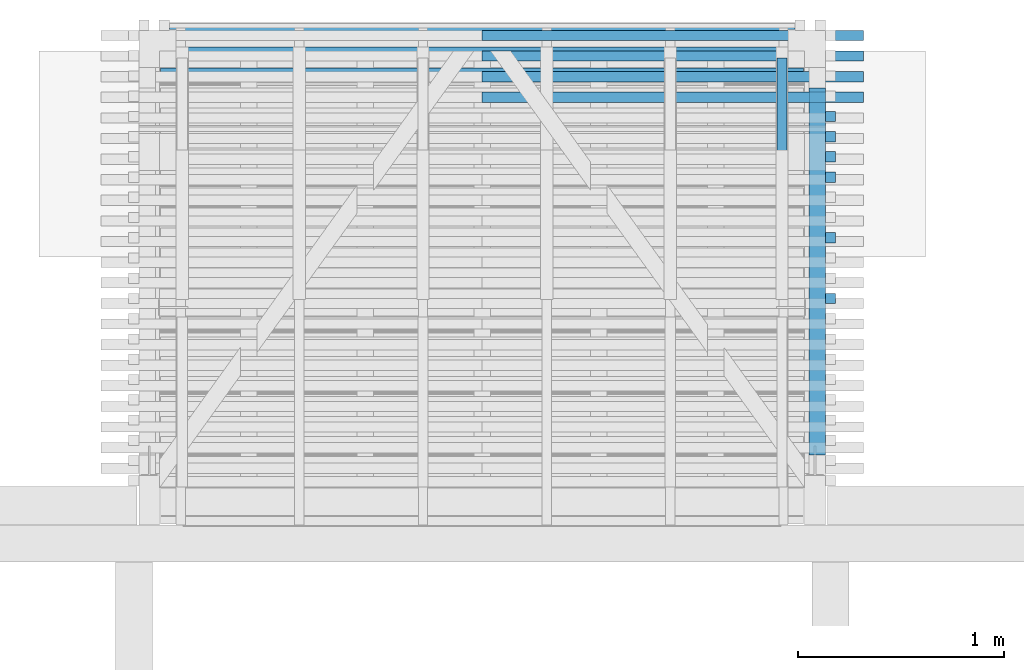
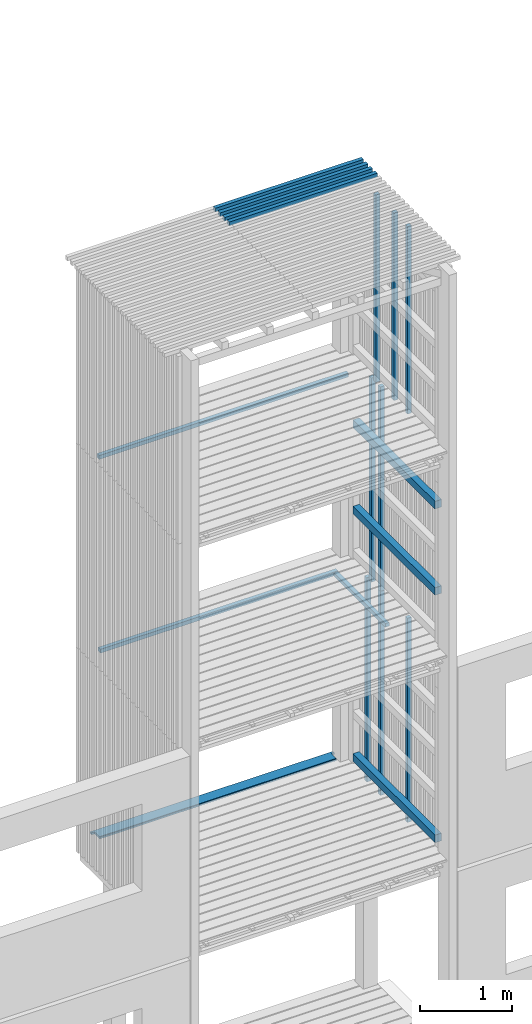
# One storey, part 28 of 182: 19 beams.
"""IFC2X3 building model written with IfcOpenShell, lengths in metres."""

from ifc_helpers import new_model, si_unit, frame, origin, place, context, project, spatial, faceted_brep, element, save


model = new_model("IFC2X3")

# Units and contexts
model_context = context("Model", 3, precision=1e-06, world=origin())
ifc_project = project(units=[si_unit("LENGTHUNIT", "METRE"), si_unit("PLANEANGLEUNIT", "RADIAN")], contexts=[model_context])

# Site, building, storey
site = spatial("IfcSite", under=ifc_project, CompositionType="ELEMENT")
building = spatial("IfcBuilding", under=site, CompositionType="ELEMENT")
storey = spatial("IfcBuildingStorey", under=building, Name="vs", CompositionType="ELEMENT", Elevation=-0.85)

# Beams
placement = place(None, origin())
beam_1_placement = place(placement, frame((6.66919731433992, 12.35416861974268, 5.274999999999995), z_axis=(-1.0, 0.0, 0.0), x_axis=(0.0, 0.0, 1.0)))
element("IfcBeam", 1, at=beam_1_placement, inside=storey, Name="Bardage", context=model_context, shape_type="Brep", body=[
    faceted_brep([(1e-15, -0.024999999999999, 0.024999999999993), (1e-15, 0.024999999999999, 0.024999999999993), (1e-15, 0.024999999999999, -0.025000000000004), (1e-15, -0.024999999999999, -0.025000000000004), (2.699999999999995, -0.024999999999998, -0.025000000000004), (2.699999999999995, 0.024999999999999, -0.025000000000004), (2.699999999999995, 0.024999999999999, 0.024999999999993), (2.699999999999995, -0.024999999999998, 0.024999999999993), (1e-15, -0.024999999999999, 0.024999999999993), (1e-15, -0.024999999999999, -0.025000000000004), (2.699999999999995, -0.024999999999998, -0.025000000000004), (2.699999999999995, -0.024999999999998, 0.024999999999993), (2.699999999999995, -0.024999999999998, -0.025000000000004), (1e-15, -0.024999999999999, -0.025000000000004), (1e-15, 0.024999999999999, -0.025000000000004), (2.699999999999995, 0.024999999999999, -0.025000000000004), (2.699999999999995, 0.024999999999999, -0.025000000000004), (1e-15, 0.024999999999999, -0.025000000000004), (1e-15, 0.024999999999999, 0.024999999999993), (2.699999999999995, 0.024999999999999, 0.024999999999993), (2.699999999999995, 0.024999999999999, 0.024999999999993), (1e-15, 0.024999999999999, 0.024999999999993), (1e-15, -0.024999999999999, 0.024999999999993), (2.699999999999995, -0.024999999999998, 0.024999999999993)], [[[0, 1, 2, 3]], [[4, 5, 6, 7]], [[8, 9, 10, 11]], [[12, 13, 14, 15]], [[16, 17, 18, 19]], [[20, 21, 22, 23]]]),
])
beam_2_placement = place(placement, frame((6.66919731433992, 12.157804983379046, 5.274999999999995), z_axis=(-1.0, 0.0, 0.0), x_axis=(0.0, 0.0, 1.0)))
element("IfcBeam", 2, at=beam_2_placement, inside=storey, Name="Bardage", context=model_context, shape_type="Brep", body=[
    faceted_brep([(1e-15, -0.024999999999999, 0.024999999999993), (1e-15, 0.024999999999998, 0.024999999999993), (1e-15, 0.024999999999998, -0.025000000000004), (1e-15, -0.024999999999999, -0.025000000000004), (2.699999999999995, -0.024999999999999, -0.025000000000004), (2.699999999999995, 0.025000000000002, -0.025000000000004), (2.699999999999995, 0.025000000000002, 0.024999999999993), (2.699999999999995, -0.024999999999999, 0.024999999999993), (1e-15, -0.024999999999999, 0.024999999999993), (1e-15, -0.024999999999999, -0.025000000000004), (2.699999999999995, -0.024999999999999, -0.025000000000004), (2.699999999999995, -0.024999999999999, 0.024999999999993), (2.699999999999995, -0.024999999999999, -0.025000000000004), (1e-15, -0.024999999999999, -0.025000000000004), (1e-15, 0.024999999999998, -0.025000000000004), (2.699999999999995, 0.025000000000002, -0.025000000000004), (2.699999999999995, 0.025000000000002, -0.025000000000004), (1e-15, 0.024999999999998, -0.025000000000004), (1e-15, 0.024999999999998, 0.024999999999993), (2.699999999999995, 0.025000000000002, 0.024999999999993), (2.699999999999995, 0.025000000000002, 0.024999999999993), (1e-15, 0.024999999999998, 0.024999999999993), (1e-15, -0.024999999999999, 0.024999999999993), (2.699999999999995, -0.024999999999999, 0.024999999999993)], [[[0, 1, 2, 3]], [[4, 5, 6, 7]], [[8, 9, 10, 11]], [[12, 13, 14, 15]], [[16, 17, 18, 19]], [[20, 21, 22, 23]]]),
])
beam_3_placement = place(placement, frame((6.66919731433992, 11.568714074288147, 2.575000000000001), z_axis=(-1.0, 0.0, 0.0), x_axis=(0.0, 0.0, 1.0)))
element("IfcBeam", 3, at=beam_3_placement, inside=storey, Name="Bardage", context=model_context, shape_type="Brep", body=[
    faceted_brep([(0.0, -0.024999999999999, 0.024999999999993), (0.0, 0.024999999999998, 0.024999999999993), (0.0, 0.024999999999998, -0.025000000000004), (0.0, -0.024999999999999, -0.025000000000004), (2.699961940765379, 0.024999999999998, -0.025000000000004), (2.699961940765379, 0.024999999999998, 0.024999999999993), (2.699961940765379, -0.024999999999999, 0.024999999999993), (2.699961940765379, -0.024999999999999, -0.025000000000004), (0.0, -0.024999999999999, -0.025000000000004), (0.0, 0.024999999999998, -0.025000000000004), (2.699961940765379, 0.024999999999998, -0.025000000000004), (2.699961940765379, -0.024999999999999, -0.025000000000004), (2.699961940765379, 0.024999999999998, -0.025000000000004), (0.0, 0.024999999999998, -0.025000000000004), (0.0, 0.024999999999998, 0.024999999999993), (2.699961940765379, 0.024999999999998, 0.024999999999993), (2.699961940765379, 0.024999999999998, 0.024999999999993), (0.0, 0.024999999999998, 0.024999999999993), (0.0, -0.024999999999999, 0.024999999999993), (2.699961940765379, -0.024999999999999, 0.024999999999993), (2.699961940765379, -0.024999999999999, 0.024999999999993), (0.0, -0.024999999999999, 0.024999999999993), (0.0, -0.024999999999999, -0.025000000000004), (2.699961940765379, -0.024999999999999, -0.025000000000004)], [[[0, 1, 2, 3]], [[4, 5, 6, 7]], [[8, 9, 10, 11]], [[12, 13, 14, 15]], [[16, 17, 18, 19]], [[20, 21, 22, 23]]]),
])
beam_4_placement = place(placement, frame((6.604197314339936, 10.810077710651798, 2.830000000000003), z_axis=(0.0, 0.0, 1.0), x_axis=(0.0, 1.0, 0.0)))
element("IfcBeam", 4, at=beam_4_placement, inside=storey, Name="Support bardage", context=model_context, shape_type="Brep", body=[
    faceted_brep([(1.779999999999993, -0.039999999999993, 0.05), (1.779999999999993, -0.039999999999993, -0.050000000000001), (1.779999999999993, 0.04000000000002, -0.050000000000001), (1.779999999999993, 0.04000000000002, 0.05), (-4e-15, -0.039999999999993, -0.050000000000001), (1.779999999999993, -0.039999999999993, -0.050000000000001), (1.779999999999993, -0.039999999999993, 0.05), (-4e-15, -0.039999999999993, 0.05), (-4e-15, 0.04000000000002, -0.050000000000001), (1.779999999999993, 0.04000000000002, -0.050000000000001), (1.779999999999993, -0.039999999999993, -0.050000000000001), (-4e-15, -0.039999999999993, -0.050000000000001), (-4e-15, 0.04000000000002, 0.05), (1.779999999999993, 0.04000000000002, 0.05), (1.779999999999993, 0.04000000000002, -0.050000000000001), (-4e-15, 0.04000000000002, -0.050000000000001), (-4e-15, -0.039999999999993, 0.05), (1.779999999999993, -0.039999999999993, 0.05), (1.779999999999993, 0.04000000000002, 0.05), (-4e-15, 0.04000000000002, 0.05), (-4e-15, -0.039999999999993, -0.050000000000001), (-4e-15, -0.039999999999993, 0.05), (-4e-15, 0.04000000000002, 0.05), (-4e-15, 0.04000000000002, -0.050000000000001)], [[[0, 1, 2, 3]], [[4, 5, 6, 7]], [[8, 9, 10, 11]], [[12, 13, 14, 15]], [[16, 17, 18, 19]], [[20, 21, 22, 23]]]),
])
beam_5_placement = place(placement, frame((6.66919731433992, 12.255986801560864, 7.974999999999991), z_axis=(-1.0, 0.0, 0.0), x_axis=(0.0, 0.0, 1.0)))
element("IfcBeam", 5, at=beam_5_placement, inside=storey, Name="Bardage", context=model_context, shape_type="Brep", body=[
    faceted_brep([(2.479999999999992, -0.025000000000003, 0.024999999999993), (2.479999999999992, -0.025000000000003, -0.025000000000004), (2.479999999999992, 0.025000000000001, -0.025000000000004), (2.479999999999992, 0.025000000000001, 0.024999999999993), (0.0, 0.025000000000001, 0.024999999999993), (0.0, -0.025000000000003, 0.024999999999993), (2.479999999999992, -0.025000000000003, 0.024999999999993), (2.479999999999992, 0.025000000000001, 0.024999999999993), (0.0, -0.025000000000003, 0.024999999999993), (0.0, 0.025000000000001, 0.024999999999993), (0.0, 0.025000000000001, -0.025000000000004), (0.0, -0.025000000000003, -0.025000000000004), (0.0, 0.025000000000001, -0.025000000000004), (0.0, 0.025000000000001, 0.024999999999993), (2.479999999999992, 0.025000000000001, 0.024999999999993), (2.479999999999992, 0.025000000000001, -0.025000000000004), (0.0, -0.025000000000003, -0.025000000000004), (0.0, 0.025000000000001, -0.025000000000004), (2.479999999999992, 0.025000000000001, -0.025000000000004), (2.479999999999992, -0.025000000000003, -0.025000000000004), (2.479999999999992, -0.025000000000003, 0.024999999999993), (0.0, -0.025000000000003, 0.024999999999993), (0.0, -0.025000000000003, -0.025000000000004), (2.479999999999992, -0.025000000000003, -0.025000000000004)], [[[0, 1, 2, 3]], [[4, 5, 6, 7]], [[8, 9, 10, 11]], [[12, 13, 14, 15]], [[16, 17, 18, 19]], [[20, 21, 22, 23]]]),
])
beam_6_placement = place(placement, frame((6.66919731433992, 12.157804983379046, 2.575000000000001), z_axis=(-1.0, 0.0, 0.0), x_axis=(0.0, 0.0, 1.0)))
element("IfcBeam", 6, at=beam_6_placement, inside=storey, Name="Bardage", context=model_context, shape_type="Brep", body=[
    faceted_brep([(0.0, -0.024999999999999, 0.024999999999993), (0.0, 0.025000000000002, 0.024999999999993), (0.0, 0.025000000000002, -0.025000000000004), (0.0, -0.024999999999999, -0.025000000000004), (2.699961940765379, 0.025000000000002, -0.025000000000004), (2.699961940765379, 0.025000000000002, 0.024999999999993), (2.699961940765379, -0.024999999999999, 0.024999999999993), (2.699961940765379, -0.024999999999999, -0.025000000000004), (0.0, -0.024999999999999, -0.025000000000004), (0.0, 0.025000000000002, -0.025000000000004), (2.699961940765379, 0.025000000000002, -0.025000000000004), (2.699961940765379, -0.024999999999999, -0.025000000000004), (2.699961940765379, 0.025000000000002, -0.025000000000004), (0.0, 0.025000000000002, -0.025000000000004), (0.0, 0.025000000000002, 0.024999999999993), (2.699961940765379, 0.025000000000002, 0.024999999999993), (2.699961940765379, 0.025000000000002, 0.024999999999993), (0.0, 0.025000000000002, 0.024999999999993), (0.0, -0.024999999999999, 0.024999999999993), (2.699961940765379, -0.024999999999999, 0.024999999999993), (2.699961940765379, -0.024999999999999, 0.024999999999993), (0.0, -0.024999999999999, 0.024999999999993), (0.0, -0.024999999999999, -0.025000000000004), (2.699961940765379, -0.024999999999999, -0.025000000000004)], [[[0, 1, 2, 3]], [[4, 5, 6, 7]], [[8, 9, 10, 11]], [[12, 13, 14, 15]], [[16, 17, 18, 19]], [[20, 21, 22, 23]]]),
])
beam_7_placement = place(placement, frame((6.604197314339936, 10.810077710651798, 6.101249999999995), z_axis=(0.0, 0.0, 1.0), x_axis=(0.0, 1.0, 0.0)))
element("IfcBeam", 7, at=beam_7_placement, inside=storey, Name="Support bardage", context=model_context, shape_type="Brep", body=[
    faceted_brep([(1.779999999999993, -0.039999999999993, 0.050000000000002), (1.779999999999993, -0.039999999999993, -0.05), (1.779999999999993, 0.04000000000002, -0.05), (1.779999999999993, 0.04000000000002, 0.050000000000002), (-4e-15, -0.039999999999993, -0.05), (1.779999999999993, -0.039999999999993, -0.05), (1.779999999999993, -0.039999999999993, 0.050000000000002), (-4e-15, -0.039999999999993, 0.050000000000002), (-4e-15, 0.04000000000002, -0.05), (1.779999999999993, 0.04000000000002, -0.05), (1.779999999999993, -0.039999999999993, -0.05), (-4e-15, -0.039999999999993, -0.05), (-4e-15, 0.04000000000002, 0.050000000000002), (1.779999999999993, 0.04000000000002, 0.050000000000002), (1.779999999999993, 0.04000000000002, -0.05), (-4e-15, 0.04000000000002, -0.05), (-4e-15, -0.039999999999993, 0.050000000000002), (1.779999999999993, -0.039999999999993, 0.050000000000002), (1.779999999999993, 0.04000000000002, 0.050000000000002), (-4e-15, 0.04000000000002, 0.050000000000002), (-4e-15, -0.039999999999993, -0.05), (-4e-15, -0.039999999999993, 0.050000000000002), (-4e-15, 0.04000000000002, 0.050000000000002), (-4e-15, 0.04000000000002, -0.05)], [[[0, 1, 2, 3]], [[4, 5, 6, 7]], [[8, 9, 10, 11]], [[12, 13, 14, 15]], [[16, 17, 18, 19]], [[20, 21, 22, 23]]]),
])
beam_8_placement = place(placement, frame((6.66919731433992, 11.863259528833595, 7.974999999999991), z_axis=(-1.0, 0.0, 0.0), x_axis=(0.0, 0.0, 1.0)))
element("IfcBeam", 8, at=beam_8_placement, inside=storey, Name="Bardage", context=model_context, shape_type="Brep", body=[
    faceted_brep([(2.479999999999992, -0.024999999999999, 0.024999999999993), (2.479999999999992, -0.024999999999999, -0.025000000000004), (2.479999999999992, 0.024999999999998, -0.025000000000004), (2.479999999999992, 0.024999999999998, 0.024999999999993), (0.0, 0.024999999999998, 0.024999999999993), (0.0, -0.024999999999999, 0.024999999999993), (2.479999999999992, -0.024999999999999, 0.024999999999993), (2.479999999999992, 0.024999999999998, 0.024999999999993), (0.0, -0.024999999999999, 0.024999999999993), (0.0, 0.024999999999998, 0.024999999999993), (0.0, 0.024999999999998, -0.025000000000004), (0.0, -0.024999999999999, -0.025000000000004), (0.0, 0.024999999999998, -0.025000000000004), (0.0, 0.024999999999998, 0.024999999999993), (2.479999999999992, 0.024999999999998, 0.024999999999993), (2.479999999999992, 0.024999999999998, -0.025000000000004), (0.0, -0.024999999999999, -0.025000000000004), (0.0, 0.024999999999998, -0.025000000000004), (2.479999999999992, 0.024999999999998, -0.025000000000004), (2.479999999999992, -0.024999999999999, -0.025000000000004), (2.479999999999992, -0.024999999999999, 0.024999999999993), (0.0, -0.024999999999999, 0.024999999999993), (0.0, -0.024999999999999, -0.025000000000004), (2.479999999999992, -0.024999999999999, -0.025000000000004)], [[[0, 1, 2, 3]], [[4, 5, 6, 7]], [[8, 9, 10, 11]], [[12, 13, 14, 15]], [[16, 17, 18, 19]], [[20, 21, 22, 23]]]),
])
beam_9_placement = place(placement, frame((6.434197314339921, 12.735077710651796, 5.217399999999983), z_axis=(0.0, 0.0, 1.0), x_axis=(0.0, -1.0, 0.0)))
element("IfcBeam", 9, at=beam_9_placement, inside=storey, Name="Calage", context=model_context, shape_type="Brep", body=[
    faceted_brep([(0.0, 0.025000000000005, -0.025), (0.0, -0.024999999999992, -0.025), (0.0, -0.024999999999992, 0.024999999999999), (0.0, 0.025000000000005, 0.024999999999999), (1.115000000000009, -0.024999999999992, 0.024999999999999), (1.115000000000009, -0.024999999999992, -0.025), (1.115000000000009, 0.025000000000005, -0.025), (1.115000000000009, 0.025000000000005, 0.024999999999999), (0.0, -0.024999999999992, 0.024999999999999), (0.0, -0.024999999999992, -0.025), (1.115000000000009, -0.024999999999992, -0.025), (1.115000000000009, -0.024999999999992, 0.024999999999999), (1.115000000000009, -0.024999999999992, -0.025), (0.0, -0.024999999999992, -0.025), (0.0, 0.025000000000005, -0.025), (1.115000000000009, 0.025000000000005, -0.025), (1.115000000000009, 0.025000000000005, -0.025), (0.0, 0.025000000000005, -0.025), (0.0, 0.025000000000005, 0.024999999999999), (1.115000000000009, 0.025000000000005, 0.024999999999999), (1.115000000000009, 0.025000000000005, 0.024999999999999), (0.0, 0.025000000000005, 0.024999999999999), (0.0, -0.024999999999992, 0.024999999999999), (1.115000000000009, -0.024999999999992, 0.024999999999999)], [[[0, 1, 2, 3]], [[4, 5, 6, 7]], [[8, 9, 10, 11]], [[12, 13, 14, 15]], [[16, 17, 18, 19]], [[20, 21, 22, 23]]]),
])
beam_10_placement = place(placement, frame((6.604197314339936, 10.810077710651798, 7.24374999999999), z_axis=(0.0, 0.0, 1.0), x_axis=(0.0, 1.0, 0.0)))
element("IfcBeam", 10, at=beam_10_placement, inside=storey, Name="Support bardage", context=model_context, shape_type="Brep", body=[
    faceted_brep([(1.779999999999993, -0.039999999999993, 0.050000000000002), (1.779999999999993, -0.039999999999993, -0.049999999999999), (1.779999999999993, 0.04000000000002, -0.049999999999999), (1.779999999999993, 0.04000000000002, 0.050000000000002), (-4e-15, -0.039999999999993, -0.049999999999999), (1.779999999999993, -0.039999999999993, -0.049999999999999), (1.779999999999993, -0.039999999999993, 0.050000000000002), (-4e-15, -0.039999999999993, 0.050000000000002), (-4e-15, 0.04000000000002, -0.049999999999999), (1.779999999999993, 0.04000000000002, -0.049999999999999), (1.779999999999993, -0.039999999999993, -0.049999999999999), (-4e-15, -0.039999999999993, -0.049999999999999), (-4e-15, 0.04000000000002, 0.050000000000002), (1.779999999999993, 0.04000000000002, 0.050000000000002), (1.779999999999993, 0.04000000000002, -0.049999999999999), (-4e-15, 0.04000000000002, -0.049999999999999), (-4e-15, -0.039999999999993, 0.050000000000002), (1.779999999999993, -0.039999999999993, 0.050000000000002), (1.779999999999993, 0.04000000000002, 0.050000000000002), (-4e-15, 0.04000000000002, 0.050000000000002), (-4e-15, -0.039999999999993, -0.049999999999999), (-4e-15, -0.039999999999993, 0.050000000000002), (-4e-15, 0.04000000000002, 0.050000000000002), (-4e-15, 0.04000000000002, -0.049999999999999)], [[[0, 1, 2, 3]], [[4, 5, 6, 7]], [[8, 9, 10, 11]], [[12, 13, 14, 15]], [[16, 17, 18, 19]], [[20, 21, 22, 23]]]),
])
beam_11_placement = place(placement, frame((6.66919731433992, 11.568714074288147, 7.974999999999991), z_axis=(-1.0, 0.0, 0.0), x_axis=(0.0, 0.0, 1.0)))
element("IfcBeam", 11, at=beam_11_placement, inside=storey, Name="Bardage", context=model_context, shape_type="Brep", body=[
    faceted_brep([(2.479999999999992, -0.024999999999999, 0.024999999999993), (2.479999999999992, -0.024999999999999, -0.025000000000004), (2.479999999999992, 0.024999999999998, -0.025000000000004), (2.479999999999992, 0.024999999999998, 0.024999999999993), (0.0, 0.024999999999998, 0.024999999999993), (0.0, -0.024999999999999, 0.024999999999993), (2.479999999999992, -0.024999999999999, 0.024999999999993), (2.479999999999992, 0.024999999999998, 0.024999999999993), (0.0, -0.024999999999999, 0.024999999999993), (0.0, 0.024999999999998, 0.024999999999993), (0.0, 0.024999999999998, -0.025000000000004), (0.0, -0.024999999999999, -0.025000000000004), (0.0, 0.024999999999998, -0.025000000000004), (0.0, 0.024999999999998, 0.024999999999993), (2.479999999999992, 0.024999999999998, 0.024999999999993), (2.479999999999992, 0.024999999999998, -0.025000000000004), (0.0, -0.024999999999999, -0.025000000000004), (0.0, 0.024999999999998, -0.025000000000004), (2.479999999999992, 0.024999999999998, -0.025000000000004), (2.479999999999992, -0.024999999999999, -0.025000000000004), (2.479999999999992, -0.024999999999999, 0.024999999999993), (0.0, -0.024999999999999, 0.024999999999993), (0.0, -0.024999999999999, -0.025000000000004), (2.479999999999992, -0.024999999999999, -0.025000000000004)], [[[0, 1, 2, 3]], [[4, 5, 6, 7]], [[8, 9, 10, 11]], [[12, 13, 14, 15]], [[16, 17, 18, 19]], [[20, 21, 22, 23]]]),
])
beam_12_placement = place(placement, frame((6.66919731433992, 12.452350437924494, 2.575000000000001), z_axis=(-1.0, 0.0, 0.0), x_axis=(0.0, 0.0, 1.0)))
element("IfcBeam", 12, at=beam_12_placement, inside=storey, Name="Bardage", context=model_context, shape_type="Brep", body=[
    faceted_brep([(0.0, -0.024999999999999, 0.024999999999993), (0.0, 0.025000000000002, 0.024999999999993), (0.0, 0.025000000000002, -0.025000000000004), (0.0, -0.024999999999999, -0.025000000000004), (2.699961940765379, 0.025000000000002, -0.025000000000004), (2.699961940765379, 0.025000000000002, 0.024999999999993), (2.699961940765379, -0.024999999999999, 0.024999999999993), (2.699961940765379, -0.024999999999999, -0.025000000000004), (0.0, -0.024999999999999, -0.025000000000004), (0.0, 0.025000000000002, -0.025000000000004), (2.699961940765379, 0.025000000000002, -0.025000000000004), (2.699961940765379, -0.024999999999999, -0.025000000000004), (2.699961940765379, 0.025000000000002, -0.025000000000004), (0.0, 0.025000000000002, -0.025000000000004), (0.0, 0.025000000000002, 0.024999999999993), (2.699961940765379, 0.025000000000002, 0.024999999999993), (2.699961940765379, 0.025000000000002, 0.024999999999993), (0.0, 0.025000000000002, 0.024999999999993), (0.0, -0.024999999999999, 0.024999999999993), (2.699961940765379, -0.024999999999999, 0.024999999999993), (2.699961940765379, -0.024999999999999, 0.024999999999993), (0.0, -0.024999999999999, 0.024999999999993), (0.0, -0.024999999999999, -0.025000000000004), (2.699961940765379, -0.024999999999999, -0.025000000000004)], [[[0, 1, 2, 3]], [[4, 5, 6, 7]], [[8, 9, 10, 11]], [[12, 13, 14, 15]], [[16, 17, 18, 19]], [[20, 21, 22, 23]]]),
])
beam_13_placement = place(placement, frame((6.829197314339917, 12.745077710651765, 10.47999999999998), z_axis=(0.0, 0.0, 1.0), x_axis=(-1.0, 0.0, 0.0)))
element("IfcBeam", 13, at=beam_13_placement, inside=storey, Name="Bardage", context=model_context, shape_type="Brep", body=[
    faceted_brep([(-3e-15, 0.024999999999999, 0.025000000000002), (-3e-15, -0.024999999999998, 0.025000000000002), (1.849999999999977, -0.024999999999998, 0.025000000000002), (1.849999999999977, 0.024999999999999, 0.025000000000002), (1.849999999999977, -0.024999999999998, 0.025000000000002), (-3e-15, -0.024999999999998, 0.025000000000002), (-3e-15, -0.024999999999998, -0.024999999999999), (1.849999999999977, -0.024999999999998, -0.024999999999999), (-3e-15, -0.024999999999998, 0.025000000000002), (-3e-15, 0.024999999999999, 0.025000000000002), (-3e-15, 0.024999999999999, -0.024999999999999), (-3e-15, -0.024999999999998, -0.024999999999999), (-3e-15, 0.024999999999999, -0.024999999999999), (-3e-15, 0.024999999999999, 0.025000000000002), (1.849999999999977, 0.024999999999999, 0.025000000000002), (1.849999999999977, 0.024999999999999, -0.024999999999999), (1.849999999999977, -0.024999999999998, -0.024999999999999), (-3e-15, -0.024999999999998, -0.024999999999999), (-3e-15, 0.024999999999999, -0.024999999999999), (1.849999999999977, 0.024999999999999, -0.024999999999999), (1.849999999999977, -0.024999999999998, 0.025000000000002), (1.849999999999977, -0.024999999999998, -0.024999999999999), (1.849999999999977, 0.024999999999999, -0.024999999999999), (1.849999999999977, 0.024999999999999, 0.025000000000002)], [[[0, 1, 2, 3]], [[4, 5, 6, 7]], [[8, 9, 10, 11]], [[12, 13, 14, 15]], [[16, 17, 18, 19]], [[20, 21, 22, 23]]]),
])
beam_14_placement = place(placement, frame((6.829197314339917, 12.645077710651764, 10.47999999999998), z_axis=(0.0, 0.0, 1.0), x_axis=(-1.0, 0.0, 0.0)))
element("IfcBeam", 14, at=beam_14_placement, inside=storey, Name="Bardage", context=model_context, shape_type="Brep", body=[
    faceted_brep([(-3e-15, 0.024999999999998, 0.025000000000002), (-3e-15, -0.025000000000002, 0.025000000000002), (1.849999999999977, -0.025000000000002, 0.025000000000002), (1.849999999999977, 0.024999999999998, 0.025000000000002), (1.849999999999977, -0.025000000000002, 0.025000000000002), (-3e-15, -0.025000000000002, 0.025000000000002), (-3e-15, -0.025000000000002, -0.024999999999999), (1.849999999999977, -0.025000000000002, -0.024999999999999), (-3e-15, -0.025000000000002, 0.025000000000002), (-3e-15, 0.024999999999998, 0.025000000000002), (-3e-15, 0.024999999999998, -0.024999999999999), (-3e-15, -0.025000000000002, -0.024999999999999), (-3e-15, 0.024999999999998, -0.024999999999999), (-3e-15, 0.024999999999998, 0.025000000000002), (1.849999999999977, 0.024999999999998, 0.025000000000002), (1.849999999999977, 0.024999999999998, -0.024999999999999), (1.849999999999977, -0.025000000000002, -0.024999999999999), (-3e-15, -0.025000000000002, -0.024999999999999), (-3e-15, 0.024999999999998, -0.024999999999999), (1.849999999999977, 0.024999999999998, -0.024999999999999), (1.849999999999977, -0.025000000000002, 0.025000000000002), (1.849999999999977, -0.025000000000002, -0.024999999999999), (1.849999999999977, 0.024999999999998, -0.024999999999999), (1.849999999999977, 0.024999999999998, 0.025000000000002)], [[[0, 1, 2, 3]], [[4, 5, 6, 7]], [[8, 9, 10, 11]], [[12, 13, 14, 15]], [[16, 17, 18, 19]], [[20, 21, 22, 23]]]),
])
beam_15_placement = place(placement, frame((6.829197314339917, 12.84507771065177, 10.47999999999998), z_axis=(0.0, 0.0, 1.0), x_axis=(-1.0, 0.0, 0.0)))
element("IfcBeam", 15, at=beam_15_placement, inside=storey, Name="Bardage", context=model_context, shape_type="Brep", body=[
    faceted_brep([(-3e-15, 0.025000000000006, 0.025000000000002), (-3e-15, -0.024999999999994, 0.025000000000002), (1.849999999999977, -0.024999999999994, 0.025000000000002), (1.849999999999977, 0.025000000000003, 0.025000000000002), (1.849999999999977, -0.024999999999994, 0.025000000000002), (-3e-15, -0.024999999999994, 0.025000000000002), (-3e-15, -0.024999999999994, -0.024999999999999), (1.849999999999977, -0.024999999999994, -0.024999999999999), (-3e-15, -0.024999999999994, 0.025000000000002), (-3e-15, 0.025000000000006, 0.025000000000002), (-3e-15, 0.025000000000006, -0.024999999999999), (-3e-15, -0.024999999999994, -0.024999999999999), (-3e-15, 0.025000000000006, -0.024999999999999), (-3e-15, 0.025000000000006, 0.025000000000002), (1.849999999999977, 0.025000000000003, 0.025000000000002), (1.849999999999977, 0.025000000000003, -0.024999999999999), (1.849999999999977, -0.024999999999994, -0.024999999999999), (-3e-15, -0.024999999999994, -0.024999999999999), (-3e-15, 0.025000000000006, -0.024999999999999), (1.849999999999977, 0.025000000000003, -0.024999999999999), (1.849999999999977, -0.024999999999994, 0.025000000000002), (1.849999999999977, -0.024999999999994, -0.024999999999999), (1.849999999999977, 0.025000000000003, -0.024999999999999), (1.849999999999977, 0.025000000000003, 0.025000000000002)], [[[0, 1, 2, 3]], [[4, 5, 6, 7]], [[8, 9, 10, 11]], [[12, 13, 14, 15]], [[16, 17, 18, 19]], [[20, 21, 22, 23]]]),
])
beam_16_placement = place(placement, frame((6.829197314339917, 12.545077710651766, 10.47999999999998), z_axis=(0.0, 0.0, 1.0), x_axis=(-1.0, 0.0, 0.0)))
element("IfcBeam", 16, at=beam_16_placement, inside=storey, Name="Bardage", context=model_context, shape_type="Brep", body=[
    faceted_brep([(-3e-15, 0.025000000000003, 0.025000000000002), (-3e-15, -0.024999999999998, 0.025000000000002), (1.849999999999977, -0.025000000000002, 0.025000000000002), (1.849999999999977, 0.025000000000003, 0.025000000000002), (1.849999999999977, -0.025000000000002, 0.025000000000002), (-3e-15, -0.024999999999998, 0.025000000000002), (-3e-15, -0.024999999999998, -0.024999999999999), (1.849999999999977, -0.025000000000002, -0.024999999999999), (-3e-15, -0.024999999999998, 0.025000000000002), (-3e-15, 0.025000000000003, 0.025000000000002), (-3e-15, 0.025000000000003, -0.024999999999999), (-3e-15, -0.024999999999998, -0.024999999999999), (-3e-15, 0.025000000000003, -0.024999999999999), (-3e-15, 0.025000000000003, 0.025000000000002), (1.849999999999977, 0.025000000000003, 0.025000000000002), (1.849999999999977, 0.025000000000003, -0.024999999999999), (1.849999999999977, -0.025000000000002, -0.024999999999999), (-3e-15, -0.024999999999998, -0.024999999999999), (-3e-15, 0.025000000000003, -0.024999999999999), (1.849999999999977, 0.025000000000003, -0.024999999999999), (1.849999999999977, -0.025000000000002, 0.025000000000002), (1.849999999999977, -0.025000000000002, -0.024999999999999), (1.849999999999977, 0.025000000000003, -0.024999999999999), (1.849999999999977, 0.025000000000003, 0.025000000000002)], [[[0, 1, 2, 3]], [[4, 5, 6, 7]], [[8, 9, 10, 11]], [[12, 13, 14, 15]], [[16, 17, 18, 19]], [[20, 21, 22, 23]]]),
])
beam_17_placement = place(placement, frame((3.494197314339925, 12.76507771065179, 5.217399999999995), z_axis=(0.0, 0.0, 1.0), x_axis=(1.0, 1e-15, 0.0)))
element("IfcBeam", 17, at=beam_17_placement, inside=storey, Name="Ligneul", context=model_context, shape_type="Brep", body=[
    faceted_brep([(2e-15, -0.024999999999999, -0.024999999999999), (2.970000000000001, -0.025000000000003, -0.024999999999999), (2.970000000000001, -0.025000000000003, 0.025), (2e-15, -0.024999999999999, 0.025), (2e-15, -0.024999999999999, 0.025), (2.970000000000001, -0.025000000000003, 0.025), (2.970000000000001, 0.024999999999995, 0.025), (2e-15, 0.025000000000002, 0.025), (2e-15, 0.025000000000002, -0.024999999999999), (2e-15, -0.024999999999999, -0.024999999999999), (2e-15, -0.024999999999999, 0.025), (2e-15, 0.025000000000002, 0.025), (2e-15, 0.025000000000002, -0.024999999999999), (2e-15, 0.025000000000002, 0.025), (2.970000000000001, 0.024999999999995, 0.025), (2.970000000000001, 0.025000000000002, -0.024999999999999), (2e-15, -0.024999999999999, -0.024999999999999), (2e-15, 0.025000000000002, -0.024999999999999), (2.970000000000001, 0.025000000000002, -0.024999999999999), (2.970000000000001, -0.025000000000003, -0.024999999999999), (2.970000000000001, 0.025000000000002, -0.024999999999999), (2.970000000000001, 0.024999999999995, 0.025), (2.970000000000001, -0.025000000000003, 0.025), (2.970000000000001, -0.025000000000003, -0.024999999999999)], [[[0, 1, 2, 3]], [[4, 5, 6, 7]], [[8, 9, 10, 11]], [[12, 13, 14, 15]], [[16, 17, 18, 19]], [[20, 21, 22, 23]]]),
])
beam_18_placement = place(placement, frame((6.539197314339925, 12.66299437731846, 7.86739999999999), z_axis=(0.0, 0.0, 1.0), x_axis=(-1.0, -1e-15, 0.0)))
element("IfcBeam", 18, at=beam_18_placement, inside=storey, Name="Bardage", context=model_context, shape_type="Brep", body=[
    faceted_brep([(3.120000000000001, 0.024999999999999, -0.024999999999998), (3.120000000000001, 0.024999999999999, 0.025000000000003), (3.120000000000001, -0.025000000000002, 0.025000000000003), (3.120000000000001, -0.025000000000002, -0.024999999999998), (-3e-15, -0.024999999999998, -0.024999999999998), (-3e-15, -0.024999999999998, 0.025000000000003), (-3e-15, 0.025000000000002, 0.025000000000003), (-3e-15, 0.025000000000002, -0.024999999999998), (-3e-15, 0.025000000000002, -0.024999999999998), (-3e-15, 0.025000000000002, 0.025000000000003), (3.120000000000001, 0.024999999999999, 0.025000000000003), (3.120000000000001, 0.024999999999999, -0.024999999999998), (-3e-15, 0.025000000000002, 0.025000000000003), (-3e-15, -0.024999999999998, 0.025000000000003), (3.120000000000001, -0.025000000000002, 0.025000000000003), (3.120000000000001, 0.024999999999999, 0.025000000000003), (-3e-15, -0.024999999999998, 0.025000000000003), (-3e-15, -0.024999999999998, -0.024999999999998), (3.120000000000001, -0.025000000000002, -0.024999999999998), (3.120000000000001, -0.025000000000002, 0.025000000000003), (-3e-15, -0.024999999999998, -0.024999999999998), (-3e-15, 0.025000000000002, -0.024999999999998), (3.120000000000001, 0.024999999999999, -0.024999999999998), (3.120000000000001, -0.025000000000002, -0.024999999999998)], [[[0, 1, 2, 3]], [[4, 5, 6, 7]], [[8, 9, 10, 11]], [[12, 13, 14, 15]], [[16, 17, 18, 19]], [[20, 21, 22, 23]]]),
])
beam_19_placement = place(placement, frame((6.496015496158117, 12.834577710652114, 2.733499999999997), z_axis=(0.0, 0.0, 1.0), x_axis=(-1.0, 0.0, 0.0)))
element("IfcBeam", 19, at=beam_19_placement, inside=storey, Name="Caillebotis", context=model_context, shape_type="Brep", body=[
    faceted_brep([(3.033636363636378, -0.072499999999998, -0.0135), (3.033636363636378, -0.072499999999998, 0.008500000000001), (2e-15, -0.072499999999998, 0.008500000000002), (2e-15, -0.072500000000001, -0.0135), (2.996818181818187, 0.072500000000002, 0.0085), (2.996818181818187, 0.067500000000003, 0.0135), (2.996818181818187, -0.040499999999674, 0.0135), (2.996818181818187, -0.040499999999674, -0.0135), (2.996818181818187, 0.072500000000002, -0.0135), (0.036818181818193, -0.040499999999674, -0.0135), (0.036818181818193, 0.072499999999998, -0.0135), (2.996818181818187, 0.072500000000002, -0.0135), (2.996818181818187, -0.040499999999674, -0.0135), (3.033636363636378, -0.040499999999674, -0.0135), (3.033636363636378, -0.072499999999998, -0.0135), (2e-15, -0.072500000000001, -0.0135), (2e-15, -0.040499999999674, -0.0135), (3.033636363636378, -0.072499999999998, 0.008500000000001), (3.033636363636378, -0.072499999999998, -0.0135), (3.033636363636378, -0.040499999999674, -0.0135), (3.033636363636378, -0.040499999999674, 0.0135), (3.033636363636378, -0.067500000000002, 0.0135), (3.033636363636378, -0.040499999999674, 0.0135), (3.033636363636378, -0.040499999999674, -0.0135), (2.996818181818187, -0.040499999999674, -0.0135), (2.996818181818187, -0.040499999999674, 0.0135), (2.996818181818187, 0.072500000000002, 0.0085), (2.996818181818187, 0.072500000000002, -0.0135), (0.036818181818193, 0.072499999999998, -0.0135), (0.036818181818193, 0.072499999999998, 0.0085), (2.996818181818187, 0.067500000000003, 0.0135), (2.996818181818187, 0.072500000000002, 0.0085), (0.036818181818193, 0.072499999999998, 0.0085), (0.036818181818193, 0.067500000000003, 0.0135), (0.036818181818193, 0.067500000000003, 0.0135), (0.036818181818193, 0.072499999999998, 0.0085), (0.036818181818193, 0.072499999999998, -0.0135), (0.036818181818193, -0.040499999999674, -0.0135), (0.036818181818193, -0.040499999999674, 0.0135), (0.036818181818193, -0.040499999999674, 0.0135), (0.036818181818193, -0.040499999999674, -0.0135), (2e-15, -0.040499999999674, -0.0135), (2e-15, -0.040499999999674, 0.0135), (3.033636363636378, -0.067500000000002, 0.0135), (3.033636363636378, -0.040499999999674, 0.0135), (2.996818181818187, -0.040499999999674, 0.0135), (2.996818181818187, 0.067500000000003, 0.0135), (0.036818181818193, 0.067500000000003, 0.0135), (0.036818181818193, -0.040499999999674, 0.0135), (2e-15, -0.040499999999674, 0.0135), (2e-15, -0.067500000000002, 0.0135), (2e-15, -0.072499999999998, 0.008500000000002), (3.033636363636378, -0.072499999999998, 0.008500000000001), (3.033636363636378, -0.067500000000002, 0.0135), (2e-15, -0.067500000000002, 0.0135), (2e-15, -0.072500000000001, -0.0135), (2e-15, -0.072499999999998, 0.008500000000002), (2e-15, -0.067500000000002, 0.0135), (2e-15, -0.040499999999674, 0.0135), (2e-15, -0.040499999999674, -0.0135)], [[[0, 1, 2, 3]], [[4, 5, 6, 7, 8]], [[9, 10, 11, 12, 13, 14, 15, 16]], [[17, 18, 19, 20, 21]], [[22, 23, 24, 25]], [[26, 27, 28, 29]], [[30, 31, 32, 33]], [[34, 35, 36, 37, 38]], [[39, 40, 41, 42]], [[43, 44, 45, 46, 47, 48, 49, 50]], [[51, 52, 53, 54]], [[55, 56, 57, 58, 59]]]),
])

save(model, "model.ifc")
